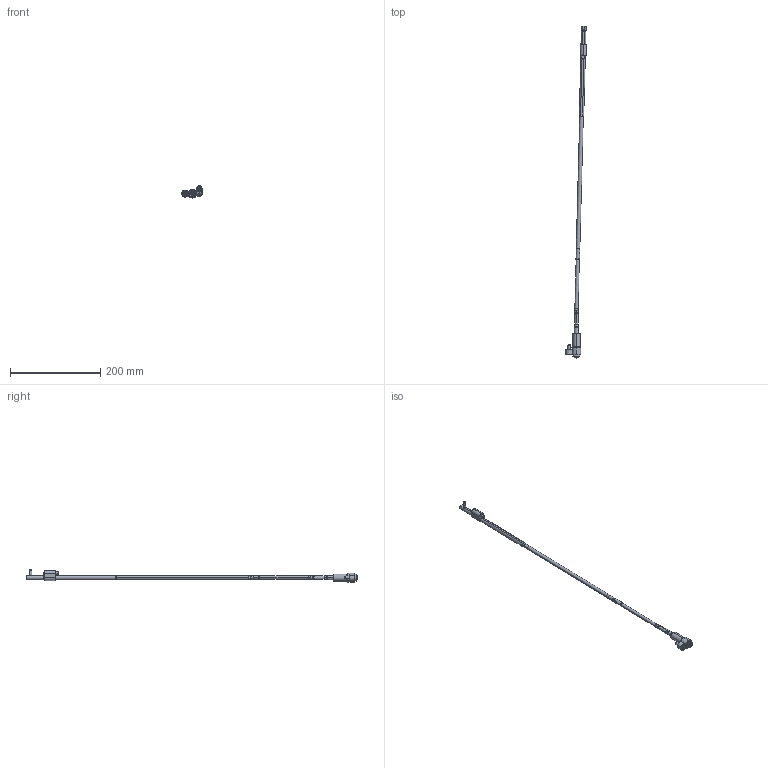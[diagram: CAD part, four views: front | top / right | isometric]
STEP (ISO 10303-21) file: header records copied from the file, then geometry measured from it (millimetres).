
FILE_DESCRIPTION (( 'STEP AP214' ), '1' );
FILE_NAME ('WL080100L-EJE 1,5°.STEP', '2021-03-19T15:24:04', ( '' ), ( '' ), 'SwSTEP 2.0', 'SolidWorks 2019', '' );
FILE_SCHEMA (( 'AUTOMOTIVE_DESIGN' ));
Length unit declared in the file: millimetre
Products named in the file (17): Web-WP08-1; Web-WL08XX-A7_ON-WL080100-1,5; 3IMAN4X2-150_con sello; Web-WL08-A3; 9DR2206-TOR; WL080100-D; Web-WL08-A1; Web-WL08-F00.SLDPRT; Web-WL08-F01; 1DIN912616_DIN 912 M6 x 16 --- 16C; WL080100-C; WL080100-B1_WL0800FF-1; Web-WL08-A2; WL080100L-EJE 1,5°; WL080100-B_WL0800FF; 1DIN912545_DIN 912 M5 x 50 --- 50C; WL080100-E
Assembly tree (16 placements, depth 3):
  WL080100L-EJE 1,5°
    Web-WP08-1
    Web-WL08XX-A7_ON-WL080100-1,5
    Web-WL08-A3
    Web-WL08-A2
    Web-WL08-A1
    WL080100-D
    WL080100-C
    WL080100-B_WL0800FF
      WL080100-B1_WL0800FF-1
      3IMAN4X2-150_con sello
    WL080100-E
    9DR2206-TOR
    Web-WL08-F00.SLDPRT
      Web-WL08-F01
      1DIN912545_DIN 912 M5 x 50 --- 50C
      1DIN912616_DIN 912 M6 x 16 --- 16C
Bounding box: 45.81 x 736.92 x 26.9 mm (x, y, z)
Volume: 57314.2 mm3; surface area: 33636.4 mm2
Topology: 15 solids, 15 shells, 424 faces, 888 edges, 516 vertices
Faces by surface type: plane 132, cylinder 128, cone 116, torus 48
Entity records: 13492 total; most frequent: DIRECTION 2218, CARTESIAN_POINT 2045, ORIENTED_EDGE 1756, AXIS2_PLACEMENT_3D 921, EDGE_CURVE 878, VERTEX_POINT 516, CIRCLE 476, EDGE_LOOP 468
